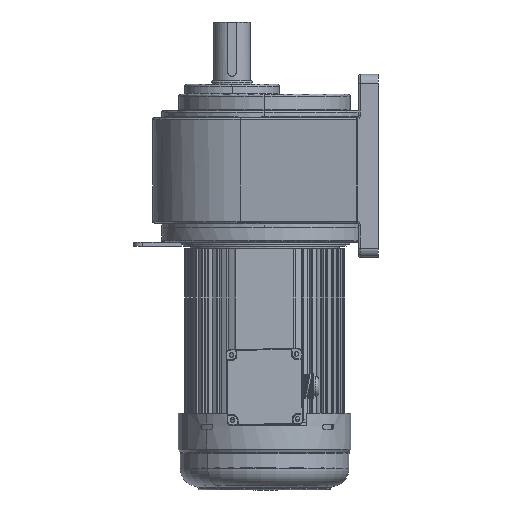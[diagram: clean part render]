
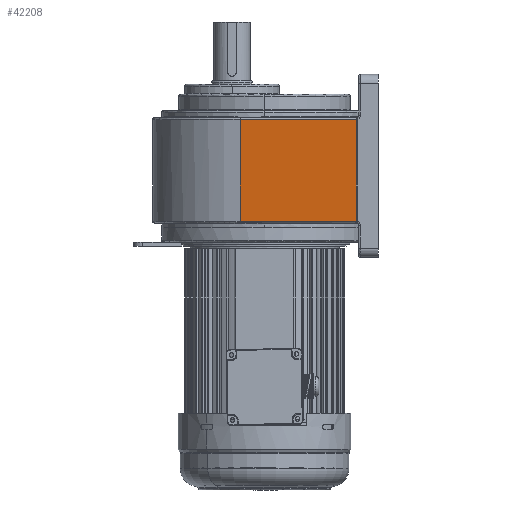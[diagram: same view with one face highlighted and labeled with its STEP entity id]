
A CAD part, left-side view. The second image highlights one B-rep face of the part: STEP entity #42208.
In plain terms, the highlighted planar face has unit normal (-0.989, 0.149, 0).
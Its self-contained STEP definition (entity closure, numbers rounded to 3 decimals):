
#12085 = CARTESIAN_POINT ( 'NONE',  ( -132.115, -101.448, 119.5 ) ) ;
#14352 = CARTESIAN_POINT ( 'NONE',  ( -112.723, 27.016, 5. ) ) ;
#16172 = VECTOR ( 'NONE', #63382, 1000. ) ;
#19745 = EDGE_LOOP ( 'NONE', ( #33639, #61157, #102687, #63788 ) ) ;
#27915 = DIRECTION ( 'NONE',  ( -0.149, -0.989, 0. ) ) ;
#32831 = VECTOR ( 'NONE', #61097, 1000. ) ;
#33639 = ORIENTED_EDGE ( 'NONE', *, *, #76516, .T. ) ;
#34066 = CARTESIAN_POINT ( 'NONE',  ( -132.115, -101.448, 117.5 ) ) ;
#36395 = DIRECTION ( 'NONE',  ( 0., 0., 1. ) ) ;
#39986 = PLANE ( 'NONE',  #134862 ) ;
#42208 = ADVANCED_FACE ( 'NONE', ( #149919 ), #39986, .T. ) ;
#42540 = VECTOR ( 'NONE', #36395, 1000. ) ;
#45438 = EDGE_CURVE ( 'NONE', #92366, #47336, #122085, .T. ) ;
#47336 = VERTEX_POINT ( 'NONE', #86776 ) ;
#57362 = CARTESIAN_POINT ( 'NONE',  ( -132.115, -101.448, 5. ) ) ;
#61097 = DIRECTION ( 'NONE',  ( 0., 0., 1. ) ) ;
#61157 = ORIENTED_EDGE ( 'NONE', *, *, #45438, .T. ) ;
#63382 = DIRECTION ( 'NONE',  ( -0.149, -0.989, 0. ) ) ;
#63788 = ORIENTED_EDGE ( 'NONE', *, *, #114436, .F. ) ;
#76516 = EDGE_CURVE ( 'NONE', #151943, #92366, #124365, .T. ) ;
#83053 = DIRECTION ( 'NONE',  ( 0.149, 0.989, 0. ) ) ;
#86776 = CARTESIAN_POINT ( 'NONE',  ( -132.115, -101.448, 117.5 ) ) ;
#88937 = CARTESIAN_POINT ( 'NONE',  ( -112.723, 27.016, 119.5 ) ) ;
#92366 = VERTEX_POINT ( 'NONE', #57362 ) ;
#97423 = LINE ( 'NONE', #146327, #42540 ) ;
#102687 = ORIENTED_EDGE ( 'NONE', *, *, #137113, .T. ) ;
#104236 = CARTESIAN_POINT ( 'NONE',  ( -112.723, 27.016, 5. ) ) ;
#109882 = CARTESIAN_POINT ( 'NONE',  ( -112.723, 27.016, 117.5 ) ) ;
#114135 = VERTEX_POINT ( 'NONE', #109882 ) ;
#114436 = EDGE_CURVE ( 'NONE', #151943, #114135, #97423, .T. ) ;
#122085 = LINE ( 'NONE', #12085, #32831 ) ;
#124365 = LINE ( 'NONE', #14352, #16172 ) ;
#134862 = AXIS2_PLACEMENT_3D ( 'NONE', #88937, #137896, #27915 ) ;
#137113 = EDGE_CURVE ( 'NONE', #47336, #114135, #144016, .T. ) ;
#137896 = DIRECTION ( 'NONE',  ( -0.989, 0.149, 0. ) ) ;
#144016 = LINE ( 'NONE', #34066, #152722 ) ;
#146327 = CARTESIAN_POINT ( 'NONE',  ( -112.723, 27.016, 3. ) ) ;
#149919 = FACE_OUTER_BOUND ( 'NONE', #19745, .T. ) ;
#151943 = VERTEX_POINT ( 'NONE', #104236 ) ;
#152722 = VECTOR ( 'NONE', #83053, 1000. ) ;
